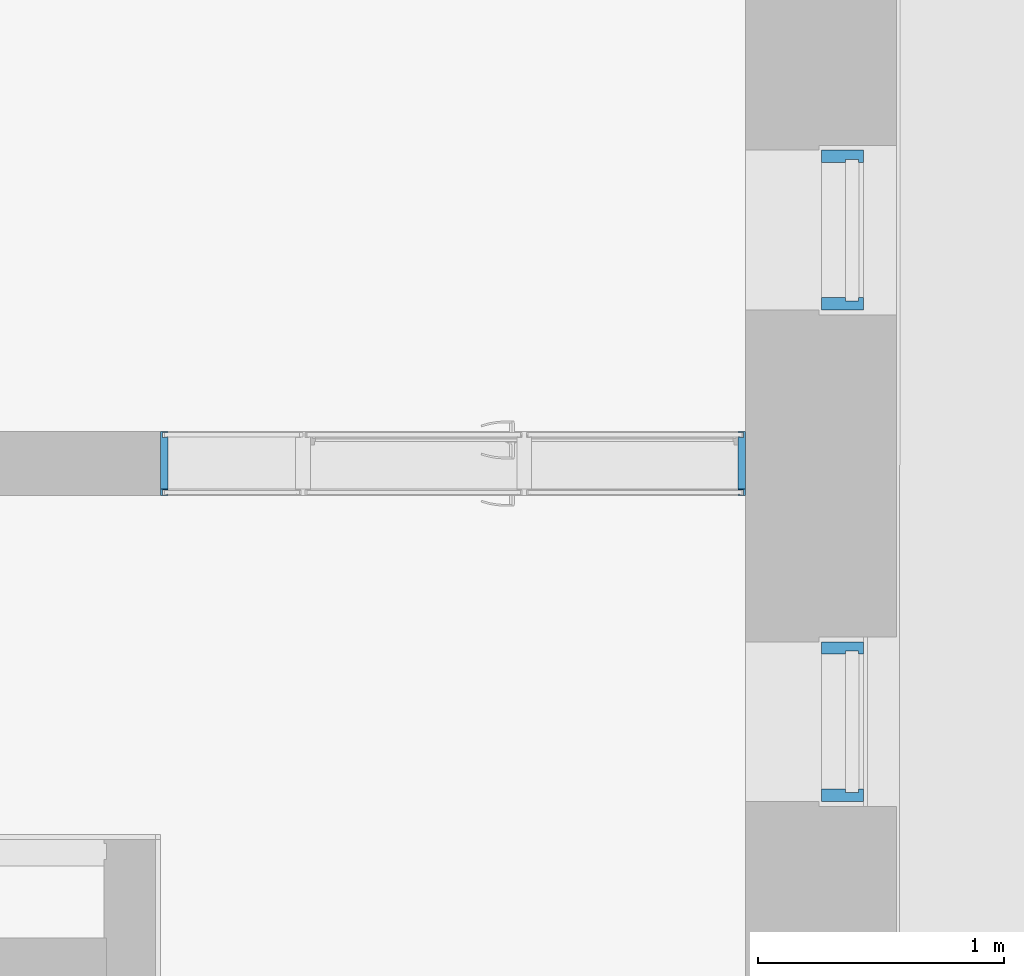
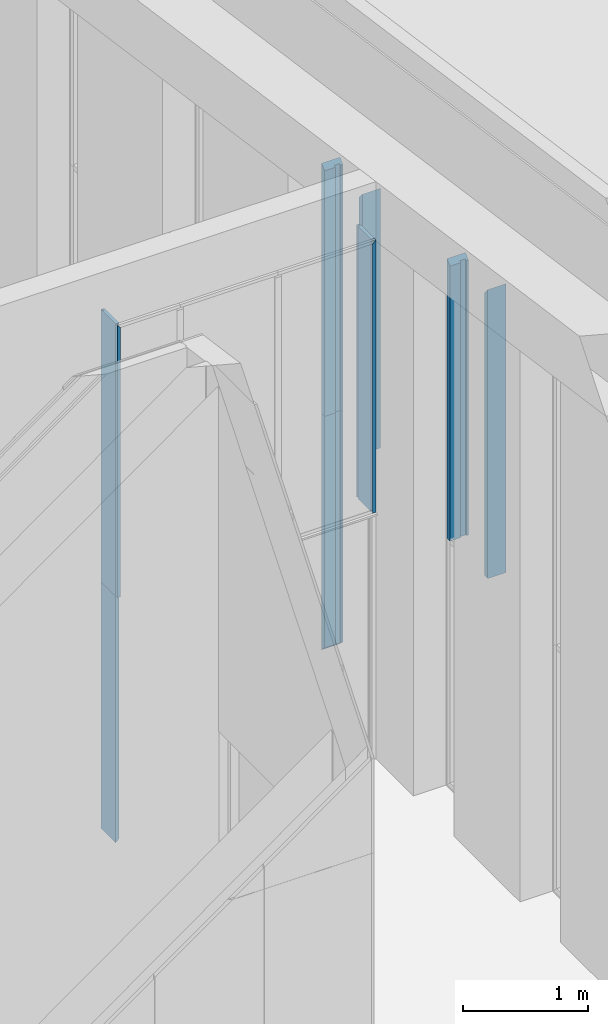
# One storey, part 74 of 246: 10 members, 4 elements without a shape of their own.
"""IFC2X3 building model written with IfcOpenShell, lengths in millimetres."""

from ifc_helpers import new_model, entity, si_unit, converted_unit, derived_unit, money_unit, direction, frame, origin_with_axes, place, context, subcontext, project, spatial, faceted_brep, material, material_list, type_object, element, aggregate, save


model = new_model("IFC2X3")

# Units and contexts
model_context = context("Model", 3, precision=0.01, world=origin_with_axes(), true_north=direction((0.0, 1.0)))
body_context = subcontext(model_context, "Body", "Model", "MODEL_VIEW")
ifc_project = project(units=[si_unit("LENGTHUNIT", "METRE", prefix="MILLI"), si_unit("AREAUNIT", "SQUARE_METRE"), si_unit("VOLUMEUNIT", "CUBIC_METRE"), converted_unit("PLANEANGLEUNIT", "DEGREE", entity("IfcPlaneAngleMeasure", 0.0174532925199), si_unit("PLANEANGLEUNIT", "RADIAN"), dimensions=[0, 0, 0, 0, 0, 0, 0]), si_unit("SOLIDANGLEUNIT", "STERADIAN"), money_unit("EUR"), converted_unit("TIMEUNIT", "Year", entity("IfcTimeMeasure", 31556926.0), si_unit("TIMEUNIT", "SECOND"), dimensions=[0, 0, 1, 0, 0, 0, 0]), si_unit("MASSUNIT", "GRAM", prefix="KILO"), si_unit("THERMODYNAMICTEMPERATUREUNIT", "DEGREE_CELSIUS"), si_unit("LUMINOUSINTENSITYUNIT", "LUMEN"), si_unit("ENERGYUNIT", "JOULE", prefix="MEGA"), derived_unit("THERMALCONDUCTANCEUNIT", [(si_unit("POWERUNIT", "WATT"), 1), (si_unit("LENGTHUNIT", "METRE"), -1), (si_unit("THERMODYNAMICTEMPERATUREUNIT", "KELVIN"), -1)]), derived_unit("SPECIFICHEATCAPACITYUNIT", [(si_unit("ENERGYUNIT", "JOULE"), 1), (si_unit("MASSUNIT", "GRAM", prefix="KILO"), -1), (si_unit("THERMODYNAMICTEMPERATUREUNIT", "KELVIN"), -1)]), derived_unit("MASSDENSITYUNIT", [(si_unit("MASSUNIT", "GRAM", prefix="KILO"), 1), (si_unit("VOLUMEUNIT", "CUBIC_METRE"), -1)])], contexts=[model_context])

# Site, building, storey
site_placement = place(None, origin_with_axes())
site = spatial("IfcSite", under=ifc_project, at=site_placement, Name="L.Koidula tn 11b", CompositionType="ELEMENT")
building_placement = place(site_placement, origin_with_axes())
building = spatial("IfcBuilding", under=site, at=building_placement, Name="Rakvere Riigigümnaasium", CompositionType="ELEMENT")
storey_placement = place(building_placement, origin_with_axes())
storey = spatial("IfcBuildingStorey", under=building, at=storey_placement, Name="1.korrus 0,00", CompositionType="ELEMENT", Elevation=0.0)

# Curtain wall, members
curtain_wall_type = type_object("IfcCurtainWallType", Name="Curtain Wall Type", PredefinedType="NOTDEFINED")
curtain_wall_1_placement = place(storey_placement, frame((47434.0004775, 60420.4546099, 0.0), z_axis=(0.0, 0.0, 1.0), x_axis=(1.0, 0.0, 0.0)))
curtain_wall_1 = element("IfcCurtainWall", 1, at=curtain_wall_1_placement, inside=storey, type_object=curtain_wall_type, Name="KLF-07-10")
ifc_material_1 = material(Name="Alumiiniumprofiil (RAL 7021)")
member_type_1 = type_object("IfcMemberType", Name="Boundary Frame 50 x 170", PredefinedType="MULLION")
member_1_placement = place(curtain_wall_1_placement, frame((0.0, -325.000020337, 2400.0), z_axis=(0.0, 0.0, 1.0), x_axis=(0.0, 1.0, 0.0)))
member_1 = element("IfcMember", 2, at=member_1_placement, type_object=member_type_1, material=ifc_material_1, Name="KLF-07-71-Profiilid", ObjectType="MULLION", context=body_context, shape_type="Brep", body=[
    faceted_brep([(37.0, 26.0, 2769.34028389), (50.0, 26.0, 2754.35833418), (50.0, 124.0, 2754.35833418), (0.0, 124.0, 2811.98121766), (0.0, -46.0, 2811.98121766), (50.0, -46.0, 2754.35833418), (50.0, -26.0, 2754.35833418), (37.0, -26.0, 2769.34028389), (37.0, 26.0, -2.49374298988e-07), (50.0, 26.0, -2.49374298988e-07), (50.0, 124.0, -2.49374298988e-07), (0.0, 124.0, -2.49374298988e-07), (0.0, -46.0, -2.49374298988e-07), (50.0, -46.0, -2.49374298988e-07), (50.0, -26.0, -2.49374298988e-07), (37.0, -26.0, -2.49374298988e-07)], [[[0, 1, 2, 3, 4, 5, 6, 7]], [[0, 8, 9, 1]], [[9, 10, 2, 1]], [[10, 11, 3, 2]], [[11, 12, 4, 3]], [[12, 13, 5, 4]], [[6, 5, 13, 14]], [[14, 15, 7, 6]], [[7, 15, 8, 0]], [[8, 15, 14, 13, 12, 11, 10, 9]]]),
])
member_2_placement = place(curtain_wall_1_placement, frame((0.0, 325.000021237, 5119.43848854), z_axis=(0.0, -6.61649264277e-10, -1.0), x_axis=(0.0, -1.0, 6.61649264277e-10)))
member_2 = element("IfcMember", 3, at=member_2_placement, type_object=member_type_1, material=ifc_material_1, Name="KLF-07-73-Profiilid", ObjectType="MULLION", context=body_context, shape_type="Brep", body=[
    faceted_brep([(36.9999982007, 26.0, 2719.43848939), (49.9999982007, 26.0, 2719.4384894), (49.9999982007, 124.0, 2719.4384894), (-1.79931447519e-06, 124.0, 2719.43848937), (-1.79931447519e-06, -46.0, 2719.43848937), (49.9999982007, -46.0, 2719.4384894), (49.9999982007, -26.0, 2719.4384894), (36.9999982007, -26.0, 2719.43848939), (36.9999999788, 26.0, 32.1053007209), (49.9999999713, 26.0, 43.3855415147), (49.9999999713, 124.0, 43.3855415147), (0.0, 124.0, 0.0), (0.0, -46.0, 0.0), (49.9999999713, -46.0, 43.3855415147), (49.9999999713, -26.0, 43.3855415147), (36.9999999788, -26.0, 32.1053007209)], [[[0, 1, 2, 3, 4, 5, 6, 7]], [[0, 8, 9, 1]], [[9, 10, 2, 1]], [[2, 10, 11, 3]], [[3, 11, 12, 4]], [[4, 12, 13, 5]], [[6, 5, 13, 14]], [[14, 15, 7, 6]], [[7, 15, 8, 0]], [[8, 15, 14, 13, 12, 11, 10, 9]]]),
])
aggregate(curtain_wall_1, [member_1, member_2])

curtain_wall_2_placement = place(storey_placement, frame((47433.9999935, 62420.4545024, 99.9999847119), z_axis=(0.0, 0.0, 1.0), x_axis=(1.0, 0.0, 0.0)))
curtain_wall_2 = element("IfcCurtainWall", 4, at=curtain_wall_2_placement, inside=storey, type_object=curtain_wall_type, Name="KLF-07-11")
member_3_placement = place(curtain_wall_2_placement, frame((0.0, -325.000143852, 2300.00001529), z_axis=(0.0, 0.0, 1.0), x_axis=(0.0, 1.0, 0.0)))
member_3 = element("IfcMember", 5, at=member_3_placement, type_object=member_type_1, material=ifc_material_1, Name="KLF-07-72-Profiilid", ObjectType="MULLION", context=body_context, shape_type="Brep", body=[
    faceted_brep([(37.0, 26.0, 2484.59334145), (50.0, 26.0, 2469.6113921), (50.0, 124.0, 2469.6113921), (0.0, 124.0, 2527.2342742), (0.0, -46.0, 2527.2342742), (50.0, -46.0, 2469.6113921), (50.0, -26.0, 2469.6113921), (37.0, -26.0, 2484.59334145), (37.0, 26.0, -6.73269440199e-07), (50.0, 26.0, -6.73269884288e-07), (50.0, 124.0, -6.73269884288e-07), (0.0, 124.0, -6.73269884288e-07), (0.0, -46.0, -6.73269884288e-07), (50.0, -46.0, -6.73269884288e-07), (50.0, -26.0, -6.73269884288e-07), (37.0, -26.0, -6.73269440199e-07)], [[[0, 1, 2, 3, 4, 5, 6, 7]], [[0, 8, 9, 1]], [[9, 10, 2, 1]], [[10, 11, 3, 2]], [[11, 12, 4, 3]], [[12, 13, 5, 4]], [[6, 5, 13, 14]], [[14, 15, 7, 6]], [[7, 15, 8, 0]], [[8, 15, 14, 13, 12, 11, 10, 9]]]),
])
member_4_placement = place(curtain_wall_2_placement, frame((0.0, 325.000157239, 4734.69153928), z_axis=(0.0, 7.22239860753e-09, -1.0), x_axis=(0.0, -1.0, -7.22239860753e-09)))
member_4 = element("IfcMember", 6, at=member_4_placement, type_object=member_type_1, material=ifc_material_1, Name="KLF-07-74-Profiilid", ObjectType="MULLION", context=body_context, shape_type="Brep", body=[
    faceted_brep([(37.0000175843, 26.0, 2434.6915239), (50.0000175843, 26.0, 2434.69152381), (50.0000175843, 124.0, 2434.69152381), (1.75843126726e-05, 124.0, 2434.69152417), (1.75843126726e-05, -46.0, 2434.69152417), (50.0000175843, -46.0, 2434.69152381), (50.0000175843, -26.0, 2434.69152381), (37.0000175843, -26.0, 2434.6915239), (37.0000002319, 26.0, 32.1053009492), (50.0000003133, 26.0, 43.3855418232), (50.0000003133, 124.0, 43.3855418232), (0.0, 124.0, 0.0), (0.0, -46.0, 0.0), (50.0000003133, -46.0, 43.3855418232), (50.0000003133, -26.0, 43.3855418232), (37.0000002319, -26.0, 32.1053009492)], [[[0, 1, 2, 3, 4, 5, 6, 7]], [[0, 8, 9, 1]], [[9, 10, 2, 1]], [[2, 10, 11, 3]], [[3, 11, 12, 4]], [[4, 12, 13, 5]], [[6, 5, 13, 14]], [[14, 15, 7, 6]], [[7, 15, 8, 0]], [[8, 15, 14, 13, 12, 11, 10, 9]]]),
])
member_5_placement = place(curtain_wall_2_placement, frame((0.0, 325.000174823, 2300.00001529), z_axis=(0.0, 0.0, -1.0), x_axis=(0.0, -1.0, 0.0)))
member_5 = element("IfcMember", 7, at=member_5_placement, type_object=member_type_1, material=ifc_material_1, Name="KLF-07-69-Profiilid", ObjectType="MULLION", context=body_context, shape_type="Brep", body=[
    faceted_brep([(37.0, 26.0, 2263.00001529), (50.0, 26.0, 2250.00001529), (50.0, 124.0, 2250.00001529), (0.0, 124.0, 2300.00001529), (0.0, -46.0, 2300.00001529), (50.0, -46.0, 2250.00001529), (50.0, -26.0, 2250.00001529), (37.0, -26.0, 2263.00001529), (37.0, 26.0, -1.80560011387e-07), (50.0, 26.0, -1.80560011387e-07), (50.0, 124.0, -1.80560011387e-07), (0.0, 124.0, -1.80560011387e-07), (0.0, -46.0, -1.80560011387e-07), (50.0, -46.0, -1.80560011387e-07), (50.0, -26.0, -1.80560011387e-07), (37.0, -26.0, -1.80560011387e-07)], [[[0, 1, 2, 3, 4, 5, 6, 7]], [[0, 8, 9, 1]], [[9, 10, 2, 1]], [[10, 11, 3, 2]], [[11, 12, 4, 3]], [[12, 13, 5, 4]], [[6, 5, 13, 14]], [[14, 15, 7, 6]], [[7, 15, 8, 0]], [[8, 15, 14, 13, 12, 11, 10, 9]]]),
])
aggregate(curtain_wall_2, [member_3, member_4, member_5])

curtain_wall_3_placement = place(storey_placement, frame((46459.9999921, 61346.4546496, -4.47035262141e-05), z_axis=(0.0, 0.0, 1.0), x_axis=(1.0, 0.0, 0.0)))
curtain_wall_3 = element("IfcCurtainWall", 8, at=curtain_wall_3_placement, inside=storey, type_object=curtain_wall_type, Name="SKLF-04")
ifc_material_2 = material(Name="Klaasvill")
ifc_material_3 = material(Name="Teras RAL7012")
ifc_material_list_1 = material_list([ifc_material_2, ifc_material_3])
member_type_2 = type_object("IfcMemberType", Name="Boundary Frame 30 x 15", PredefinedType="MULLION")
member_6_placement = place(curtain_wall_3_placement, frame((540.000001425, 0.0, 2400.0000447), z_axis=(0.0, 0.0, 1.0), x_axis=(-1.0, 0.0, 0.0)))
member_6 = element("IfcMember", 9, at=member_6_placement, type_object=member_type_2, material=ifc_material_list_1, Name="P-SKLF-38-raam", ObjectType="MULLION", context=body_context, shape_type="Brep", body=[
    faceted_brep([(2.00001916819, -16.999999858, 0.0), (8.35001923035, -16.999999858, 0.0), (8.35001923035, -16.999999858, 2641.64998077), (2.00001916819, -16.999999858, 2647.99998083), (2.00001916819, 3.01614428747, 0.0), (8.35001923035, 3.01614428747, 0.0), (8.35001923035, 3.01614428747, 2641.64998077), (2.00001916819, 3.01614428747, 2647.99998083)], [[[0, 1, 2, 3]], [[0, 4, 5, 1]], [[1, 5, 6, 2]], [[3, 2, 6, 7]], [[4, 0, 3, 7]], [[5, 4, 7, 6]]]),
    faceted_brep([(24.987414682, 3.01614444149, 0.0), (25.004489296, 1.03075035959, 0.0), (25.004489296, 1.03075035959, 2624.9955107), (24.987414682, 3.01614444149, 2625.01258532), (28.5126239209, 3.01614444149, 0.0), (28.7655837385, 2.03853257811, 0.0), (28.4955493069, 1.03075035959, 0.0), (27.75780152, 0.293002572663, 0.0), (26.7500193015, 0.0229681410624, 0.0), (25.742237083, 0.293002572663, 0.0), (25.742237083, 0.293002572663, 2624.25776292), (26.7500193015, 0.0229681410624, 2623.2499807), (27.75780152, 0.293002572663, 2622.24219848), (28.4955493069, 1.03075035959, 2621.50445069), (28.7655837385, 2.03853257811, 2621.23441626), (28.5126239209, 3.01614444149, 2621.48737608)], [[[0, 1, 2, 3]], [[0, 4, 5, 6, 7, 8, 9, 1]], [[1, 9, 10, 2]], [[3, 2, 10, 11, 12, 13, 14, 15]], [[4, 0, 3, 15]], [[5, 4, 15, 14]], [[6, 5, 14, 13]], [[7, 6, 13, 12]], [[8, 7, 12, 11]], [[9, 8, 11, 10]]]),
    faceted_brep([(0.0, -20.0, 0.0), (30.0000193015, -20.0, 0.0), (30.0000193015, -20.0, 2619.9999807), (0.0, -20.0, 2650.0), (0.0, 6.0, 0.0), (30.0000193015, 6.0, 0.0), (30.0000193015, 3.01614444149, 0.0), (28.5126239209, 3.01614444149, 0.0), (24.987414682, 3.01614444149, 0.0), (8.35001923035, 3.01614428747, 0.0), (2.00001930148, 3.01614444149, 0.0), (2.00001930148, -17.0, 0.0), (8.35001923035, -16.999999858, 0.0), (30.0000193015, -17.0, 0.0), (30.0000193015, -17.0, 2619.9999807), (8.35001923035, -16.999999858, 2641.64998077), (2.00001930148, -17.0, 2647.9999807), (2.00001930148, 3.01614444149, 2647.9999807), (8.35001923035, 3.01614428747, 2641.64998077), (24.987414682, 3.01614444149, 2625.01258532), (28.5126239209, 3.01614444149, 2621.48737608), (30.0000193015, 3.01614444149, 2619.9999807), (30.0000193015, 6.0, 2619.9999807), (0.0, 6.0, 2650.0)], [[[0, 1, 2, 3]], [[0, 4, 5, 6, 7, 8, 9, 10, 11, 12, 13, 1]], [[1, 13, 14, 2]], [[3, 2, 14, 15, 16, 17, 18, 19, 20, 21, 22, 23]], [[4, 0, 3, 23]], [[5, 4, 23, 22]], [[6, 5, 22, 21]], [[7, 6, 21, 20]], [[8, 7, 20, 19]], [[9, 8, 19, 18]], [[10, 9, 18, 17]], [[11, 10, 17, 16]], [[12, 11, 16, 15]], [[13, 12, 15, 14]]]),
])
member_7_placement = place(curtain_wall_3_placement, frame((-1840.00000095, 0.0, 2400.0000447), z_axis=(0.0, 0.0, 1.0), x_axis=(-1.0, 0.0, 0.0)))
member_7 = element("IfcMember", 10, at=member_7_placement, type_object=member_type_2, material=ifc_material_list_1, Name="P-SKLF-42-raam", ObjectType="MULLION", context=body_context, shape_type="Brep", body=[
    faceted_brep([(-2.00001916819, -16.999999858, 0.0), (-2.00001916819, -16.999999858, 2647.99998083), (-8.35001923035, -16.999999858, 2641.64998077), (-8.35001923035, -16.999999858, 0.0), (-2.00001916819, 3.01614428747, 0.0), (-2.00001916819, 3.01614428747, 2647.99998083), (-8.35001923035, 3.01614428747, 2641.64998077), (-8.35001923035, 3.01614428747, 0.0)], [[[0, 1, 2, 3]], [[4, 5, 1, 0]], [[1, 5, 6, 2]], [[3, 2, 6, 7]], [[0, 3, 7, 4]], [[7, 6, 5, 4]]]),
    faceted_brep([(-24.987414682, 3.01614444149, 0.0), (-24.987414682, 3.01614444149, 2625.01258532), (-25.004489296, 1.03075035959, 2624.9955107), (-25.004489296, 1.03075035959, 0.0), (-28.5126239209, 3.01614444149, 0.0), (-28.5126239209, 3.01614444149, 2621.48737608), (-28.7655837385, 2.03853257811, 2621.23441626), (-28.4955493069, 1.03075035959, 2621.50445069), (-27.75780152, 0.293002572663, 2622.24219848), (-26.7500193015, 0.0229681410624, 2623.2499807), (-25.742237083, 0.293002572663, 2624.25776292), (-25.742237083, 0.293002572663, 0.0), (-26.7500193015, 0.0229681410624, 0.0), (-27.75780152, 0.293002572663, 0.0), (-28.4955493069, 1.03075035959, 0.0), (-28.7655837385, 2.03853257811, 0.0)], [[[0, 1, 2, 3]], [[4, 5, 1, 0]], [[1, 5, 6, 7, 8, 9, 10, 2]], [[3, 2, 10, 11]], [[0, 3, 11, 12, 13, 14, 15, 4]], [[15, 6, 5, 4]], [[14, 7, 6, 15]], [[13, 8, 7, 14]], [[12, 9, 8, 13]], [[11, 10, 9, 12]]]),
    faceted_brep([(0.0, -20.0, 0.0), (0.0, -20.0, 2650.0), (-30.0000193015, -20.0, 2619.9999807), (-30.0000193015, -20.0, 0.0), (0.0, 6.0, 0.0), (0.0, 6.0, 2650.0), (-30.0000193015, 6.0, 2619.9999807), (-30.0000193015, 3.01614444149, 2619.9999807), (-28.5126239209, 3.01614444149, 2621.48737608), (-24.987414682, 3.01614444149, 2625.01258532), (-8.35001923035, 3.01614428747, 2641.64998077), (-2.00001930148, 3.01614444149, 2647.9999807), (-2.00001930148, -17.0, 2647.9999807), (-8.35001923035, -16.999999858, 2641.64998077), (-30.0000193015, -17.0, 2619.9999807), (-30.0000193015, -17.0, 0.0), (-8.35001923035, -16.999999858, 0.0), (-2.00001930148, -17.0, 0.0), (-2.00001930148, 3.01614444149, 0.0), (-8.35001923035, 3.01614428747, 0.0), (-24.987414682, 3.01614444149, 0.0), (-28.5126239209, 3.01614444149, 0.0), (-30.0000193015, 3.01614444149, 0.0), (-30.0000193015, 6.0, 0.0)], [[[0, 1, 2, 3]], [[4, 5, 1, 0]], [[1, 5, 6, 7, 8, 9, 10, 11, 12, 13, 14, 2]], [[3, 2, 14, 15]], [[0, 3, 15, 16, 17, 18, 19, 20, 21, 22, 23, 4]], [[23, 6, 5, 4]], [[22, 7, 6, 23]], [[21, 8, 7, 22]], [[20, 9, 8, 21]], [[19, 10, 9, 20]], [[18, 11, 10, 19]], [[17, 12, 11, 18]], [[16, 13, 12, 17]], [[15, 14, 13, 16]]]),
])
aggregate(curtain_wall_3, [member_6, member_7])

curtain_wall_4_placement = place(storey_placement, frame((46549.9999923, 61580.5357918, -4.47035262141e-05), z_axis=(0.0, 0.0, 1.0), x_axis=(1.0, 0.0, 0.0)))
curtain_wall_4 = element("IfcCurtainWall", 11, at=curtain_wall_4_placement, inside=storey, type_object=curtain_wall_type, Name="SKLF-05")
ifc_material_4 = material(Name="Puit")
ifc_material_list_2 = material_list([ifc_material_4, ifc_material_2, ifc_material_3])
member_type_3 = type_object("IfcMemberType", Name="Boundary Frame 30 x 14", PredefinedType="MULLION")
member_8_placement = place(curtain_wall_4_placement, frame((450.000001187, 0.0, 2400.0000447), z_axis=(0.0, 0.0, 1.0), x_axis=(-1.0, 0.0, 0.0)))
member_8 = element("IfcMember", 12, at=member_8_placement, type_object=member_type_3, material=ifc_material_list_2, Name="P-SKLF-85-raam", ObjectType="MULLION", context=body_context, shape_type="Brep", body=[
    faceted_brep([(0.0, 214.0, 0.0), (0.0, 5.99999883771, 0.0), (0.0, 5.99999883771, 2650.0), (0.0, 214.0, 2650.0), (30.0000198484, 214.0, 0.0), (30.0000198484, 5.99999883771, 0.0), (30.0000198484, 5.99999883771, 2650.0), (30.0000198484, 214.0, 2650.0)], [[[0, 1, 2, 3]], [[0, 4, 5, 1]], [[1, 5, 6, 2]], [[3, 2, 6, 7]], [[4, 0, 3, 7]], [[5, 4, 7, 6]]]),
    faceted_brep([(2.00001916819, 3.01614428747, 0.0), (2.00001916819, -16.999999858, 0.0), (2.00001916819, -16.999999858, 2650.0), (2.00001916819, 3.01614428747, 2650.0), (8.35001923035, 3.01614428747, 0.0), (8.35001923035, -16.999999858, 0.0), (8.35001923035, -16.999999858, 2650.0), (8.35001923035, 3.01614428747, 2650.0)], [[[0, 1, 2, 3]], [[0, 4, 5, 1]], [[1, 5, 6, 2]], [[3, 2, 6, 7]], [[4, 0, 3, 7]], [[5, 4, 7, 6]]]),
    faceted_brep([(24.987414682, 3.01614444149, 0.0), (25.004489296, 1.03075035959, 0.0), (25.004489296, 1.03075035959, 2650.0), (24.987414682, 3.01614444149, 2650.0), (28.5126239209, 3.01614444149, 0.0), (28.7655837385, 2.03853257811, 0.0), (28.4955493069, 1.03075035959, 0.0), (27.75780152, 0.293002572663, 0.0), (26.7500193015, 0.0229681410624, 0.0), (25.742237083, 0.293002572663, 0.0), (25.742237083, 0.293002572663, 2650.0), (26.7500193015, 0.0229681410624, 2650.0), (27.75780152, 0.293002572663, 2650.0), (28.4955493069, 1.03075035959, 2650.0), (28.7655837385, 2.03853257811, 2650.0), (28.5126239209, 3.01614444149, 2650.0)], [[[0, 1, 2, 3]], [[0, 4, 5, 6, 7, 8, 9, 1]], [[1, 9, 10, 2]], [[3, 2, 10, 11, 12, 13, 14, 15]], [[4, 0, 3, 15]], [[5, 4, 15, 14]], [[6, 5, 14, 13]], [[7, 6, 13, 12]], [[8, 7, 12, 11]], [[9, 8, 11, 10]]]),
    faceted_brep([(0.0, -20.0, 0.0), (30.0000193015, -20.0, 0.0), (30.0000193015, -20.0, 2650.0), (0.0, -20.0, 2650.0), (0.0, 6.0, 0.0), (30.0000193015, 6.0, 0.0), (30.0000193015, 3.01614444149, 0.0), (28.5126239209, 3.01614444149, 0.0), (24.987414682, 3.01614444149, 0.0), (8.35001923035, 3.01614428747, 0.0), (2.00001930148, 3.01614444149, 0.0), (2.00001930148, -17.0, 0.0), (8.35001923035, -16.999999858, 0.0), (30.0000193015, -17.0, 0.0), (30.0000193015, -17.0, 2650.0), (8.35001923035, -16.999999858, 2650.0), (2.00001930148, -17.0, 2650.0), (2.00001930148, 3.01614444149, 2650.0), (8.35001923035, 3.01614428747, 2650.0), (24.987414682, 3.01614444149, 2650.0), (28.5126239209, 3.01614444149, 2650.0), (30.0000193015, 3.01614444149, 2650.0), (30.0000193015, 6.0, 2650.0), (0.0, 6.0, 2650.0)], [[[0, 1, 2, 3]], [[0, 4, 5, 6, 7, 8, 9, 10, 11, 12, 13, 1]], [[1, 13, 14, 2]], [[3, 2, 14, 15, 16, 17, 18, 19, 20, 21, 22, 23]], [[4, 0, 3, 23]], [[5, 4, 23, 22]], [[6, 5, 22, 21]], [[7, 6, 21, 20]], [[8, 7, 20, 19]], [[9, 8, 19, 18]], [[10, 9, 18, 17]], [[11, 10, 17, 16]], [[12, 11, 16, 15]], [[13, 12, 15, 14]]]),
])
member_9_placement = place(curtain_wall_4_placement, frame((-1930.00000119, 0.0, 0.0), z_axis=(0.0, 0.0, 1.0), x_axis=(-1.0, 0.0, 0.0)))
member_9 = element("IfcMember", 13, at=member_9_placement, type_object=member_type_3, material=ifc_material_list_2, Name="P-SKLF-90-raam", ObjectType="MULLION", context=body_context, shape_type="Brep", body=[
    faceted_brep([(0.0, 5.99999883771, 0.0), (0.0, 214.0, 0.0), (0.0, 214.0, 2400.0000447), (0.0, 5.99999883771, 2400.0000447), (-30.0000198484, 5.99999883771, 30.0000198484), (-30.0000198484, 214.0, 30.0000198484), (-30.0000198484, 214.0, 2400.0000447), (-30.0000198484, 5.99999883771, 2400.0000447)], [[[0, 1, 2, 3]], [[1, 0, 4, 5]], [[1, 5, 6, 2]], [[2, 6, 7, 3]], [[4, 0, 3, 7]], [[5, 4, 7, 6]]]),
    faceted_brep([(-2.00001916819, -16.999999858, 2.00001916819), (-2.00001916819, 3.01614428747, 2.00001916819), (-2.00001916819, 3.01614428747, 2400.0000447), (-2.00001916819, -16.999999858, 2400.0000447), (-8.35001923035, -16.999999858, 8.35001923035), (-8.35001923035, 3.01614428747, 8.35001923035), (-8.35001923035, 3.01614428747, 2400.0000447), (-8.35001923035, -16.999999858, 2400.0000447)], [[[0, 1, 2, 3]], [[1, 0, 4, 5]], [[1, 5, 6, 2]], [[2, 6, 7, 3]], [[4, 0, 3, 7]], [[5, 4, 7, 6]]]),
    faceted_brep([(-25.004489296, 1.03075035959, 25.004489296), (-24.987414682, 3.01614444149, 24.987414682), (-24.987414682, 3.01614444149, 2400.0000447), (-25.004489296, 1.03075035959, 2400.0000447), (-25.742237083, 0.293002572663, 25.742237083), (-26.7500193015, 0.0229681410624, 26.7500193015), (-27.75780152, 0.293002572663, 27.75780152), (-28.4955493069, 1.03075035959, 28.4955493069), (-28.7655837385, 2.03853257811, 28.7655837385), (-28.5126239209, 3.01614444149, 28.5126239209), (-28.5126239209, 3.01614444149, 2400.0000447), (-28.7655837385, 2.03853257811, 2400.0000447), (-28.4955493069, 1.03075035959, 2400.0000447), (-27.75780152, 0.293002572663, 2400.0000447), (-26.7500193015, 0.0229681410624, 2400.0000447), (-25.742237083, 0.293002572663, 2400.0000447)], [[[0, 1, 2, 3]], [[1, 0, 4, 5, 6, 7, 8, 9]], [[1, 9, 10, 2]], [[2, 10, 11, 12, 13, 14, 15, 3]], [[4, 0, 3, 15]], [[5, 4, 15, 14]], [[6, 5, 14, 13]], [[7, 6, 13, 12]], [[8, 7, 12, 11]], [[9, 8, 11, 10]]]),
    faceted_brep([(-30.0000193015, -20.0, 30.0000193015), (0.0, -20.0, 0.0), (0.0, -20.0, 2400.0000447), (-30.0000193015, -20.0, 2400.0000447), (-30.0000193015, -17.0, 30.0000193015), (-8.35001923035, -16.999999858, 8.35001923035), (-2.00001930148, -17.0, 2.00001930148), (-2.00001930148, 3.01614444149, 2.00001930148), (-8.35001923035, 3.01614428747, 8.35001923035), (-24.987414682, 3.01614444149, 24.987414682), (-28.5126239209, 3.01614444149, 28.5126239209), (-30.0000193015, 3.01614444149, 30.0000193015), (-30.0000193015, 6.0, 30.0000193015), (0.0, 6.0, 0.0), (0.0, 6.0, 2400.0000447), (-30.0000193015, 6.0, 2400.0000447), (-30.0000193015, 3.01614444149, 2400.0000447), (-28.5126239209, 3.01614444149, 2400.0000447), (-24.987414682, 3.01614444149, 2400.0000447), (-8.35001923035, 3.01614428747, 2400.0000447), (-2.00001930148, 3.01614444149, 2400.0000447), (-2.00001930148, -17.0, 2400.0000447), (-8.35001923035, -16.999999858, 2400.0000447), (-30.0000193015, -17.0, 2400.0000447)], [[[0, 1, 2, 3]], [[1, 0, 4, 5, 6, 7, 8, 9, 10, 11, 12, 13]], [[1, 13, 14, 2]], [[2, 14, 15, 16, 17, 18, 19, 20, 21, 22, 23, 3]], [[4, 0, 3, 23]], [[5, 4, 23, 22]], [[6, 5, 22, 21]], [[7, 6, 21, 20]], [[8, 7, 20, 19]], [[9, 8, 19, 18]], [[10, 9, 18, 17]], [[11, 10, 17, 16]], [[12, 11, 16, 15]], [[13, 12, 15, 14]]]),
])
member_10_placement = place(curtain_wall_4_placement, frame((-1930.00000119, 0.0, 2400.0000447), z_axis=(0.0, 0.0, 1.0), x_axis=(-1.0, 0.0, 0.0)))
member_10 = element("IfcMember", 14, at=member_10_placement, type_object=member_type_3, material=ifc_material_list_2, Name="P-SKLF-89-raam", ObjectType="MULLION", context=body_context, shape_type="Brep", body=[
    faceted_brep([(0.0, 214.0, 0.0), (0.0, 214.0, 2650.0), (0.0, 5.99999883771, 2650.0), (0.0, 5.99999883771, 0.0), (-30.0000198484, 214.0, 0.0), (-30.0000198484, 214.0, 2650.0), (-30.0000198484, 5.99999883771, 2650.0), (-30.0000198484, 5.99999883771, 0.0)], [[[0, 1, 2, 3]], [[4, 5, 1, 0]], [[1, 5, 6, 2]], [[3, 2, 6, 7]], [[0, 3, 7, 4]], [[7, 6, 5, 4]]]),
    faceted_brep([(-2.00001916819, 3.01614428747, 0.0), (-2.00001916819, 3.01614428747, 2650.0), (-2.00001916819, -16.999999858, 2650.0), (-2.00001916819, -16.999999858, 0.0), (-8.35001923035, 3.01614428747, 0.0), (-8.35001923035, 3.01614428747, 2650.0), (-8.35001923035, -16.999999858, 2650.0), (-8.35001923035, -16.999999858, 0.0)], [[[0, 1, 2, 3]], [[4, 5, 1, 0]], [[1, 5, 6, 2]], [[3, 2, 6, 7]], [[0, 3, 7, 4]], [[7, 6, 5, 4]]]),
    faceted_brep([(-24.987414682, 3.01614444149, 0.0), (-24.987414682, 3.01614444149, 2650.0), (-25.004489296, 1.03075035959, 2650.0), (-25.004489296, 1.03075035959, 0.0), (-28.5126239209, 3.01614444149, 0.0), (-28.5126239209, 3.01614444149, 2650.0), (-28.7655837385, 2.03853257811, 2650.0), (-28.4955493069, 1.03075035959, 2650.0), (-27.75780152, 0.293002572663, 2650.0), (-26.7500193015, 0.0229681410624, 2650.0), (-25.742237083, 0.293002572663, 2650.0), (-25.742237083, 0.293002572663, 0.0), (-26.7500193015, 0.0229681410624, 0.0), (-27.75780152, 0.293002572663, 0.0), (-28.4955493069, 1.03075035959, 0.0), (-28.7655837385, 2.03853257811, 0.0)], [[[0, 1, 2, 3]], [[4, 5, 1, 0]], [[1, 5, 6, 7, 8, 9, 10, 2]], [[3, 2, 10, 11]], [[0, 3, 11, 12, 13, 14, 15, 4]], [[15, 6, 5, 4]], [[14, 7, 6, 15]], [[13, 8, 7, 14]], [[12, 9, 8, 13]], [[11, 10, 9, 12]]]),
    faceted_brep([(0.0, -20.0, 0.0), (0.0, -20.0, 2650.0), (-30.0000193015, -20.0, 2650.0), (-30.0000193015, -20.0, 0.0), (0.0, 6.0, 0.0), (0.0, 6.0, 2650.0), (-30.0000193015, 6.0, 2650.0), (-30.0000193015, 3.01614444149, 2650.0), (-28.5126239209, 3.01614444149, 2650.0), (-24.987414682, 3.01614444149, 2650.0), (-8.35001923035, 3.01614428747, 2650.0), (-2.00001930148, 3.01614444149, 2650.0), (-2.00001930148, -17.0, 2650.0), (-8.35001923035, -16.999999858, 2650.0), (-30.0000193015, -17.0, 2650.0), (-30.0000193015, -17.0, 0.0), (-8.35001923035, -16.999999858, 0.0), (-2.00001930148, -17.0, 0.0), (-2.00001930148, 3.01614444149, 0.0), (-8.35001923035, 3.01614428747, 0.0), (-24.987414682, 3.01614444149, 0.0), (-28.5126239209, 3.01614444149, 0.0), (-30.0000193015, 3.01614444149, 0.0), (-30.0000193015, 6.0, 0.0)], [[[0, 1, 2, 3]], [[4, 5, 1, 0]], [[1, 5, 6, 7, 8, 9, 10, 11, 12, 13, 14, 2]], [[3, 2, 14, 15]], [[0, 3, 15, 16, 17, 18, 19, 20, 21, 22, 23, 4]], [[23, 6, 5, 4]], [[22, 7, 6, 23]], [[21, 8, 7, 22]], [[20, 9, 8, 21]], [[19, 10, 9, 20]], [[18, 11, 10, 19]], [[17, 12, 11, 18]], [[16, 13, 12, 17]], [[15, 14, 13, 16]]]),
])
aggregate(curtain_wall_4, [member_8, member_9, member_10])

save(model, "model.ifc")
